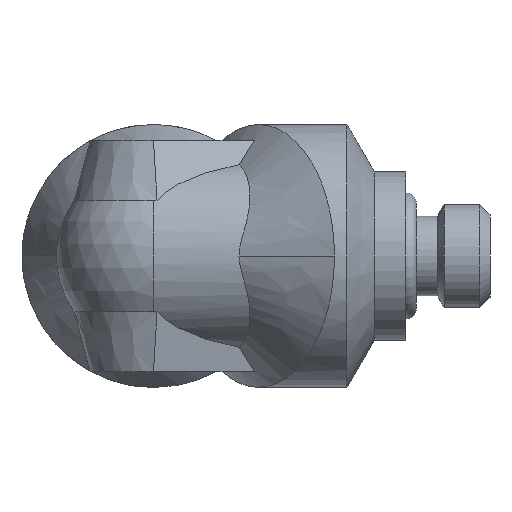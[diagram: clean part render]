
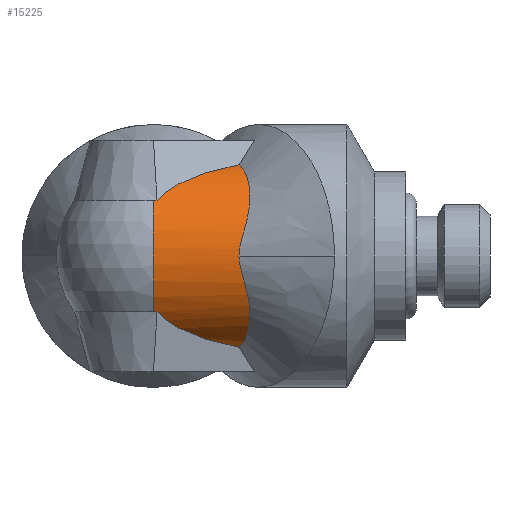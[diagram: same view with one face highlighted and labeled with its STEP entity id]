
A CAD part, left-side view. The second image highlights one B-rep face of the part: STEP entity #15225.
In plain terms, the highlighted cylindrical face has radius 4.6 mm (diameter 9.2 mm), a partial arc.
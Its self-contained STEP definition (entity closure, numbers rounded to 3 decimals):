
#463 = CARTESIAN_POINT ( 'NONE',  ( 195.575, -43.194, -29.34 ) ) ;
#464 = CARTESIAN_POINT ( 'NONE',  ( 192.5, -43.183, -25. ) ) ;
#876 = VERTEX_POINT ( 'NONE', #464 ) ;
#877 = VERTEX_POINT ( 'NONE', #463 ) ;
#2740 = B_SPLINE_CURVE_WITH_KNOTS ( 'NONE', 3,
 ( #19585, #19589, #19595, #19597, #19599, #19600, #19602, #19604, #19606, #19608, #19610, #19612, #19614, #19616, #19618, #19620, #19622, #19624 ),
 .UNSPECIFIED., .F., .F.,
 ( 4, 2, 2, 2, 2, 2, 2, 2, 4 ),
 ( 0.024, 0.025, 0.026, 0.027, 0.027, 0.028, 0.029, 0.029, 0.03 ),
 .UNSPECIFIED. ) ;
#2897 = VERTEX_POINT ( 'NONE', #18957 ) ;
#2906 = VERTEX_POINT ( 'NONE', #18974 ) ;
#2907 = VERTEX_POINT ( 'NONE', #18976 ) ;
#2908 = VERTEX_POINT ( 'NONE', #18978 ) ;
#2910 = VERTEX_POINT ( 'NONE', #18982 ) ;
#3358 = EDGE_CURVE ( 'NONE', #877, #876, #2740, .T. ) ;
#3563 = EDGE_LOOP ( 'NONE', ( #7675, #7676, #7677, #7678, #7679, #7680, #7681 ) ) ;
#7675 = ORIENTED_EDGE ( 'NONE', *, *, #8557, .F. ) ;
#7676 = ORIENTED_EDGE ( 'NONE', *, *, #3358, .T. ) ;
#7677 = ORIENTED_EDGE ( 'NONE', *, *, #8556, .T. ) ;
#7678 = ORIENTED_EDGE ( 'NONE', *, *, #8558, .T. ) ;
#7679 = ORIENTED_EDGE ( 'NONE', *, *, #8559, .T. ) ;
#7680 = ORIENTED_EDGE ( 'NONE', *, *, #8560, .F. ) ;
#7681 = ORIENTED_EDGE ( 'NONE', *, *, #8561, .F. ) ;
#8556 = EDGE_CURVE ( 'NONE', #876, #2907, #20555, .T. ) ;
#8557 = EDGE_CURVE ( 'NONE', #877, #2906, #20556, .T. ) ;
#8558 = EDGE_CURVE ( 'NONE', #2907, #2897, #20557, .T. ) ;
#8559 = EDGE_CURVE ( 'NONE', #2897, #2910, #20558, .T. ) ;
#8560 = EDGE_CURVE ( 'NONE', #2908, #2910, #9316, .T. ) ;
#8561 = EDGE_CURVE ( 'NONE', #2906, #2908, #20559, .T. ) ;
#9316 = CIRCLE ( 'NONE', #21080, 4.6 ) ;
#10027 = AXIS2_PLACEMENT_3D ( 'NONE', #15633, #15634, #15642 ) ;
#15225 = ADVANCED_FACE ( 'NONE', ( #19845 ), #19853, .T. ) ;
#15633 = CARTESIAN_POINT ( 'NONE',  ( 197.1, -35.429, -25. ) ) ;
#15634 = DIRECTION ( 'NONE',  ( 0., 1., 0. ) ) ;
#15642 = DIRECTION ( 'NONE',  ( 0., 0., 1. ) ) ;
#16754 = CARTESIAN_POINT ( 'NONE',  ( 192.5, -43.183, -25. ) ) ;
#16755 = CARTESIAN_POINT ( 'NONE',  ( 192.5, -43.183, -24.753 ) ) ;
#16758 = CARTESIAN_POINT ( 'NONE',  ( 194.665, -41.361, -29.02 ) ) ;
#16759 = CARTESIAN_POINT ( 'NONE',  ( 195.575, -43.194, -29.34 ) ) ;
#16760 = CARTESIAN_POINT ( 'NONE',  ( 192.519, -43.23, -24.518 ) ) ;
#16761 = CARTESIAN_POINT ( 'NONE',  ( 192.591, -43.349, -24.057 ) ) ;
#16762 = CARTESIAN_POINT ( 'NONE',  ( 192.645, -43.418, -23.829 ) ) ;
#16763 = CARTESIAN_POINT ( 'NONE',  ( 192.787, -43.538, -23.384 ) ) ;
#16764 = CARTESIAN_POINT ( 'NONE',  ( 192.874, -43.59, -23.167 ) ) ;
#16765 = CARTESIAN_POINT ( 'NONE',  ( 193.085, -43.666, -22.742 ) ) ;
#16766 = CARTESIAN_POINT ( 'NONE',  ( 193.21, -43.691, -22.532 ) ) ;
#16767 = CARTESIAN_POINT ( 'NONE',  ( 193.489, -43.709, -22.14 ) ) ;
#16768 = CARTESIAN_POINT ( 'NONE',  ( 193.642, -43.703, -21.957 ) ) ;
#16769 = CARTESIAN_POINT ( 'NONE',  ( 193.977, -43.663, -21.614 ) ) ;
#16770 = CARTESIAN_POINT ( 'NONE',  ( 194.16, -43.629, -21.454 ) ) ;
#16771 = CARTESIAN_POINT ( 'NONE',  ( 194.539, -43.537, -21.171 ) ) ;
#16772 = CARTESIAN_POINT ( 'NONE',  ( 194.737, -43.481, -21.046 ) ) ;
#16773 = CARTESIAN_POINT ( 'NONE',  ( 195.149, -43.349, -20.828 ) ) ;
#16774 = CARTESIAN_POINT ( 'NONE',  ( 195.361, -43.274, -20.735 ) ) ;
#16775 = CARTESIAN_POINT ( 'NONE',  ( 195.575, -43.194, -20.66 ) ) ;
#16776 = CARTESIAN_POINT ( 'NONE',  ( 194.665, -41.361, -20.98 ) ) ;
#16777 = CARTESIAN_POINT ( 'NONE',  ( 195.575, -43.194, -20.66 ) ) ;
#16778 = CARTESIAN_POINT ( 'NONE',  ( 193.896, -40.016, -28.439 ) ) ;
#16779 = CARTESIAN_POINT ( 'NONE',  ( 193.34, -39.287, -27.651 ) ) ;
#16780 = CARTESIAN_POINT ( 'NONE',  ( 193.336, -39.231, -22.355 ) ) ;
#16781 = CARTESIAN_POINT ( 'NONE',  ( 193.34, -39.287, -22.349 ) ) ;
#16782 = CARTESIAN_POINT ( 'NONE',  ( 193.896, -40.016, -21.561 ) ) ;
#16783 = CARTESIAN_POINT ( 'NONE',  ( 193.34, -39.287, -22.349 ) ) ;
#16784 = CARTESIAN_POINT ( 'NONE',  ( 193.334, -39.174, -22.358 ) ) ;
#16785 = CARTESIAN_POINT ( 'NONE',  ( 193.334, -39.116, -22.358 ) ) ;
#16786 = CARTESIAN_POINT ( 'NONE',  ( 193.34, -39.287, -27.651 ) ) ;
#16787 = CARTESIAN_POINT ( 'NONE',  ( 193.336, -39.231, -27.645 ) ) ;
#16788 = CARTESIAN_POINT ( 'NONE',  ( 197.1, -39.116, -25. ) ) ;
#16789 = DIRECTION ( 'NONE',  ( 0., 1., 0. ) ) ;
#16790 = DIRECTION ( 'NONE',  ( 0., 0., 1. ) ) ;
#16792 = CARTESIAN_POINT ( 'NONE',  ( 193.334, -39.174, -27.642 ) ) ;
#16793 = CARTESIAN_POINT ( 'NONE',  ( 193.334, -39.116, -27.642 ) ) ;
#18957 = CARTESIAN_POINT ( 'NONE',  ( 193.34, -39.287, -22.349 ) ) ;
#18974 = CARTESIAN_POINT ( 'NONE',  ( 193.34, -39.287, -27.651 ) ) ;
#18976 = CARTESIAN_POINT ( 'NONE',  ( 195.575, -43.194, -20.66 ) ) ;
#18978 = CARTESIAN_POINT ( 'NONE',  ( 193.334, -39.116, -27.642 ) ) ;
#18982 = CARTESIAN_POINT ( 'NONE',  ( 193.334, -39.116, -22.358 ) ) ;
#19585 = CARTESIAN_POINT ( 'NONE',  ( 195.575, -43.194, -29.34 ) ) ;
#19589 = CARTESIAN_POINT ( 'NONE',  ( 195.362, -43.274, -29.265 ) ) ;
#19595 = CARTESIAN_POINT ( 'NONE',  ( 195.148, -43.349, -29.172 ) ) ;
#19597 = CARTESIAN_POINT ( 'NONE',  ( 194.739, -43.48, -28.955 ) ) ;
#19599 = CARTESIAN_POINT ( 'NONE',  ( 194.542, -43.537, -28.831 ) ) ;
#19600 = CARTESIAN_POINT ( 'NONE',  ( 194.163, -43.628, -28.549 ) ) ;
#19602 = CARTESIAN_POINT ( 'NONE',  ( 193.98, -43.662, -28.389 ) ) ;
#19604 = CARTESIAN_POINT ( 'NONE',  ( 193.646, -43.703, -28.048 ) ) ;
#19606 = CARTESIAN_POINT ( 'NONE',  ( 193.492, -43.709, -27.865 ) ) ;
#19608 = CARTESIAN_POINT ( 'NONE',  ( 193.214, -43.691, -27.473 ) ) ;
#19610 = CARTESIAN_POINT ( 'NONE',  ( 193.088, -43.667, -27.264 ) ) ;
#19612 = CARTESIAN_POINT ( 'NONE',  ( 192.876, -43.591, -26.839 ) ) ;
#19614 = CARTESIAN_POINT ( 'NONE',  ( 192.788, -43.539, -26.621 ) ) ;
#19616 = CARTESIAN_POINT ( 'NONE',  ( 192.646, -43.419, -26.174 ) ) ;
#19618 = CARTESIAN_POINT ( 'NONE',  ( 192.592, -43.35, -25.947 ) ) ;
#19620 = CARTESIAN_POINT ( 'NONE',  ( 192.519, -43.231, -25.485 ) ) ;
#19622 = CARTESIAN_POINT ( 'NONE',  ( 192.5, -43.183, -25.246 ) ) ;
#19624 = CARTESIAN_POINT ( 'NONE',  ( 192.5, -43.183, -25. ) ) ;
#19845 = FACE_OUTER_BOUND ( 'NONE', #3563, .T. ) ;
#19853 = CYLINDRICAL_SURFACE ( 'NONE', #10027, 4.6 ) ;
#20555 = B_SPLINE_CURVE_WITH_KNOTS ( 'NONE', 3,
 ( #16754, #16755, #16760, #16761, #16762, #16763, #16764, #16765, #16766, #16767, #16768, #16769, #16770, #16771, #16772, #16773, #16774, #16775 ),
 .UNSPECIFIED., .F., .F.,
 ( 4, 2, 2, 2, 2, 2, 2, 2, 4 ),
 ( 0., 0.001, 0.001, 0.002, 0.003, 0.004, 0.004, 0.005, 0.006 ),
 .UNSPECIFIED. ) ;
#20556 =( BOUNDED_CURVE ( )  B_SPLINE_CURVE ( 3, ( #16759, #16758, #16778, #16779 ),
 .UNSPECIFIED., .F., .F. ) 
 B_SPLINE_CURVE_WITH_KNOTS ( ( 4, 4 ),
 ( 5.336, 5.954 ),
 .UNSPECIFIED. ) 
 CURVE ( )  GEOMETRIC_REPRESENTATION_ITEM ( )  RATIONAL_B_SPLINE_CURVE ( ( 1., 0.968, 0.968, 1. ) ) 
 REPRESENTATION_ITEM ( '' )  );
#20557 =( BOUNDED_CURVE ( )  B_SPLINE_CURVE ( 3, ( #16777, #16776, #16782, #16783 ),
 .UNSPECIFIED., .F., .F. ) 
 B_SPLINE_CURVE_WITH_KNOTS ( ( 4, 4 ),
 ( 5.336, 5.954 ),
 .UNSPECIFIED. ) 
 CURVE ( )  GEOMETRIC_REPRESENTATION_ITEM ( )  RATIONAL_B_SPLINE_CURVE ( ( 1., 0.968, 0.968, 1. ) ) 
 REPRESENTATION_ITEM ( '' )  );
#20558 = B_SPLINE_CURVE_WITH_KNOTS ( 'NONE', 3,
 ( #16781, #16780, #16784, #16785 ),
 .UNSPECIFIED., .F., .F.,
 ( 4, 4 ),
 ( 0., 0. ),
 .UNSPECIFIED. ) ;
#20559 = B_SPLINE_CURVE_WITH_KNOTS ( 'NONE', 3,
 ( #16786, #16787, #16792, #16793 ),
 .UNSPECIFIED., .F., .F.,
 ( 4, 4 ),
 ( 0., 0. ),
 .UNSPECIFIED. ) ;
#21080 = AXIS2_PLACEMENT_3D ( 'NONE', #16788, #16789, #16790 ) ;
